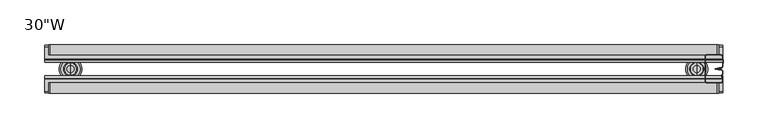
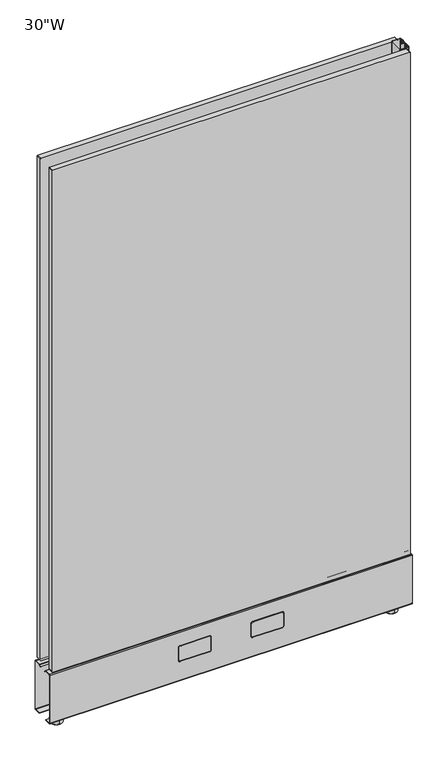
"""IFC4 building model written with IfcOpenShell, lengths in millimetres: furniture geometry."""

from ifc_helpers import new_model, si_unit, point, frame, frame_2d, origin, place, context, project, spatial, polyline, circle_curve, trimmed, segment, composite_curve, outline, extrude, source, transform, mapped, element, save
from ifc_brep_helpers import plane_surface, cylinder_surface, revolved_surface, advanced_brep


def furniture_b77347cf(model_context):
    return source(origin(), model_context, "Body", "SolidModel", [
        extrude(outline(composite_curve([segment(trimmed(circle_curve(frame_2d((133.8403843, 755.9740343)), 1.2634657), [point((132.5769186, 755.9740343))], [point((133.8403843, 757.2375))], False, "CARTESIAN"), True, "CONTINUOUS"), segment(polyline([(133.8403843, 757.2375), (1245.2602242, 757.2375)]), True, "CONTINUOUS"), segment(trimmed(circle_curve(frame_2d((1245.2602242, 755.3941949)), 1.8433051), [point((1245.2602242, 757.2375))], [point((1247.1035294, 755.3941949))], False, "CARTESIAN"), True, "CONTINUOUS"), segment(polyline([(1247.1035294, 755.3941949), (1247.1035294, 6.3370556)]), True, "CONTINUOUS"), segment(trimmed(circle_curve(frame_2d((1245.4908737, 6.3370556)), 1.6126556), [point((1247.1035294, 6.3370556))], [point((1245.4908737, 4.7243999))], False, "CARTESIAN"), True, "CONTINUOUS"), segment(polyline([(1245.4908737, 4.7243999), (134.0795596, 4.7243999)]), True, "CONTINUOUS"), segment(trimmed(circle_curve(frame_2d((134.0795596, 6.227041)), 1.5026411), [point((134.0795596, 4.7243999))], [point((132.5769186, 6.227041))], False, "CARTESIAN"), True, "CONTINUOUS"), segment(polyline([(132.5769186, 6.227041), (132.5769186, 755.9740343)]), True, "CONTINUOUS")], self_intersect=False)), frame((0.0, 44.4550341, 0.0), z_axis=(0.0, 1.0, 0.0), x_axis=(0.0, 0.0, 1.0)), (0.0, 0.0, 1.0), 11.5108241),
        extrude(outline(composite_curve([segment(trimmed(circle_curve(frame_2d((133.8403843, 755.9740343)), 1.2634657), [point((132.5769186, 755.9740343))], [point((133.8403843, 757.2375))], False, "CARTESIAN"), True, "CONTINUOUS"), segment(polyline([(133.8403843, 757.2375), (1245.2602242, 757.2375)]), True, "CONTINUOUS"), segment(trimmed(circle_curve(frame_2d((1245.2602242, 755.3941949)), 1.8433051), [point((1245.2602242, 757.2375))], [point((1247.1035294, 755.3941949))], False, "CARTESIAN"), True, "CONTINUOUS"), segment(polyline([(1247.1035294, 755.3941949), (1247.1035294, 6.3370556)]), True, "CONTINUOUS"), segment(trimmed(circle_curve(frame_2d((1245.4908737, 6.3370556)), 1.6126556), [point((1247.1035294, 6.3370556))], [point((1245.4908737, 4.7243999))], False, "CARTESIAN"), True, "CONTINUOUS"), segment(polyline([(1245.4908737, 4.7243999), (134.0795596, 4.7243999)]), True, "CONTINUOUS"), segment(trimmed(circle_curve(frame_2d((134.0795596, 6.227041)), 1.5026411), [point((134.0795596, 4.7243999))], [point((132.5769186, 6.227041))], False, "CARTESIAN"), True, "CONTINUOUS"), segment(polyline([(132.5769186, 6.227041), (132.5769186, 755.9740343)]), True, "CONTINUOUS")], self_intersect=False)), frame((0.0, 1.3335, 0.0), z_axis=(0.0, 1.0, 0.0), x_axis=(0.0, 0.0, 1.0)), (0.0, 0.0, 1.0), 11.5108241),
        extrude(outline(composite_curve([segment(trimmed(circle_curve(frame_2d((94.8528373, 273.6849782)), 3.175), [point((98.0278373, 273.6849782))], [point((94.8528373, 270.5099782))], False, "CARTESIAN"), True, "CONTINUOUS"), segment(polyline([(94.8528373, 270.5099782), (66.2778343, 270.5099782)]), True, "CONTINUOUS"), segment(trimmed(circle_curve(frame_2d((66.2778343, 273.6849782)), 3.175), [point((66.2778343, 270.5099782))], [point((63.1028343, 273.6849782))], False, "CARTESIAN"), True, "CONTINUOUS"), segment(polyline([(63.1028343, 273.6849782), (63.1028343, 335.9150036)]), True, "CONTINUOUS"), segment(trimmed(circle_curve(frame_2d((66.2778343, 335.9150036)), 3.175), [point((63.1028343, 335.9150036))], [point((66.2778343, 339.0900036))], False, "CARTESIAN"), True, "CONTINUOUS"), segment(polyline([(66.2778343, 339.0900036), (94.8528373, 339.0900036)]), True, "CONTINUOUS"), segment(trimmed(circle_curve(frame_2d((94.8528373, 335.9150036)), 3.175), [point((94.8528373, 339.0900036))], [point((98.0278373, 335.9150036))], False, "CARTESIAN"), True, "CONTINUOUS"), segment(polyline([(98.0278373, 335.9150036), (98.0278373, 273.6849782)]), True, "CONTINUOUS")], self_intersect=False), holes=[composite_curve([segment(trimmed(circle_curve(frame_2d((66.2778343, 335.9150036)), 2.38125), [point((66.2778343, 338.2962536))], [point((63.8965843, 335.9150036))], True, "CARTESIAN"), True, "CONTINUOUS"), segment(polyline([(63.8965843, 335.9150036), (63.8965843, 273.6849782)]), True, "CONTINUOUS"), segment(trimmed(circle_curve(frame_2d((66.2778343, 273.6849782)), 2.38125), [point((63.8965843, 273.6849782))], [point((66.2778343, 271.3037282))], True, "CARTESIAN"), True, "CONTINUOUS"), segment(polyline([(66.2778343, 271.3037282), (94.8528373, 271.3037282)]), True, "CONTINUOUS"), segment(trimmed(circle_curve(frame_2d((94.8528373, 273.6849782)), 2.38125), [point((94.8528373, 271.3037282))], [point((97.2340873, 273.6849782))], True, "CARTESIAN"), True, "CONTINUOUS"), segment(polyline([(97.2340873, 273.6849782), (97.2340873, 335.9150036)]), True, "CONTINUOUS"), segment(trimmed(circle_curve(frame_2d((94.8528373, 335.9150036)), 2.38125), [point((97.2340873, 335.9150036))], [point((94.8528373, 338.2962536))], True, "CARTESIAN"), True, "CONTINUOUS"), segment(polyline([(94.8528373, 338.2962536), (66.2778343, 338.2962536)]), True, "CONTINUOUS")], self_intersect=False)]), frame((0.0, 55.054502, 0.0), z_axis=(0.0, 1.0, 0.0), x_axis=(0.0, 0.0, 1.0)), (0.0, 0.0, 1.0), 0.79375),
        extrude(outline(composite_curve([segment(trimmed(circle_curve(frame_2d((94.8528373, 335.9150036)), 1.984375), [point((94.8528373, 337.8993786))], [point((96.8372123, 335.9150036))], False, "CARTESIAN"), True, "CONTINUOUS"), segment(polyline([(96.8372123, 335.9150036), (96.8372123, 273.6849782)]), True, "CONTINUOUS"), segment(trimmed(circle_curve(frame_2d((94.8528373, 273.6849782)), 1.984375), [point((96.8372123, 273.6849782))], [point((94.8528373, 271.7006032))], False, "CARTESIAN"), True, "CONTINUOUS"), segment(polyline([(94.8528373, 271.7006032), (66.2778343, 271.7006032)]), True, "CONTINUOUS"), segment(trimmed(circle_curve(frame_2d((66.2778343, 273.6849782)), 1.984375), [point((66.2778343, 271.7006032))], [point((64.2934593, 273.6849782))], False, "CARTESIAN"), True, "CONTINUOUS"), segment(polyline([(64.2934593, 273.6849782), (64.2934593, 335.9150036)]), True, "CONTINUOUS"), segment(trimmed(circle_curve(frame_2d((66.2778343, 335.9150036)), 1.984375), [point((64.2934593, 335.9150036))], [point((66.2778343, 337.8993786))], False, "CARTESIAN"), True, "CONTINUOUS"), segment(polyline([(66.2778343, 337.8993786), (94.8528373, 337.8993786)]), True, "CONTINUOUS")], self_intersect=False)), frame((0.0, 55.054502, 0.0), z_axis=(0.0, 1.0, 0.0), x_axis=(0.0, 0.0, 1.0)), (0.0, 0.0, 1.0), 0.79375),
        extrude(outline(composite_curve([segment(trimmed(circle_curve(frame_2d((94.8528373, 426.1103491)), 3.175), [point((98.0278373, 426.1103491))], [point((94.8528373, 422.9353491))], False, "CARTESIAN"), True, "CONTINUOUS"), segment(polyline([(94.8528373, 422.9353491), (66.2778343, 422.9353491)]), True, "CONTINUOUS"), segment(trimmed(circle_curve(frame_2d((66.2778343, 426.1103491)), 3.175), [point((66.2778343, 422.9353491))], [point((63.1028343, 426.1103491))], False, "CARTESIAN"), True, "CONTINUOUS"), segment(polyline([(63.1028343, 426.1103491), (63.1028343, 488.3403745)]), True, "CONTINUOUS"), segment(trimmed(circle_curve(frame_2d((66.2778343, 488.3403745)), 3.175), [point((63.1028343, 488.3403745))], [point((66.2778343, 491.5153745))], False, "CARTESIAN"), True, "CONTINUOUS"), segment(polyline([(66.2778343, 491.5153745), (94.8528373, 491.5153745)]), True, "CONTINUOUS"), segment(trimmed(circle_curve(frame_2d((94.8528373, 488.3403745)), 3.175), [point((94.8528373, 491.5153745))], [point((98.0278373, 488.3403745))], False, "CARTESIAN"), True, "CONTINUOUS"), segment(polyline([(98.0278373, 488.3403745), (98.0278373, 426.1103491)]), True, "CONTINUOUS")], self_intersect=False), holes=[composite_curve([segment(trimmed(circle_curve(frame_2d((66.2778343, 488.3403745)), 2.38125), [point((66.2778343, 490.7216245))], [point((63.8965843, 488.3403745))], True, "CARTESIAN"), True, "CONTINUOUS"), segment(polyline([(63.8965843, 488.3403745), (63.8965843, 426.1103491)]), True, "CONTINUOUS"), segment(trimmed(circle_curve(frame_2d((66.2778343, 426.1103491)), 2.38125), [point((63.8965843, 426.1103491))], [point((66.2778343, 423.7290991))], True, "CARTESIAN"), True, "CONTINUOUS"), segment(polyline([(66.2778343, 423.7290991), (94.8528373, 423.7290991)]), True, "CONTINUOUS"), segment(trimmed(circle_curve(frame_2d((94.8528373, 426.1103491)), 2.38125), [point((94.8528373, 423.7290991))], [point((97.2340873, 426.1103491))], True, "CARTESIAN"), True, "CONTINUOUS"), segment(polyline([(97.2340873, 426.1103491), (97.2340873, 488.3403745)]), True, "CONTINUOUS"), segment(trimmed(circle_curve(frame_2d((94.8528373, 488.3403745)), 2.38125), [point((97.2340873, 488.3403745))], [point((94.8528373, 490.7216245))], True, "CARTESIAN"), True, "CONTINUOUS"), segment(polyline([(94.8528373, 490.7216245), (66.2778343, 490.7216245)]), True, "CONTINUOUS")], self_intersect=False)]), frame((0.0, 55.054502, 0.0), z_axis=(0.0, 1.0, 0.0), x_axis=(0.0, 0.0, 1.0)), (0.0, 0.0, 1.0), 0.79375),
        extrude(outline(composite_curve([segment(trimmed(circle_curve(frame_2d((94.8528373, 488.3403745)), 1.984375), [point((94.8528373, 490.3247495))], [point((96.8372123, 488.3403745))], False, "CARTESIAN"), True, "CONTINUOUS"), segment(polyline([(96.8372123, 488.3403745), (96.8372123, 426.1103491)]), True, "CONTINUOUS"), segment(trimmed(circle_curve(frame_2d((94.8528373, 426.1103491)), 1.984375), [point((96.8372123, 426.1103491))], [point((94.8528373, 424.1259741))], False, "CARTESIAN"), True, "CONTINUOUS"), segment(polyline([(94.8528373, 424.1259741), (66.2778343, 424.1259741)]), True, "CONTINUOUS"), segment(trimmed(circle_curve(frame_2d((66.2778343, 426.1103491)), 1.984375), [point((66.2778343, 424.1259741))], [point((64.2934593, 426.1103491))], False, "CARTESIAN"), True, "CONTINUOUS"), segment(polyline([(64.2934593, 426.1103491), (64.2934593, 488.3403745)]), True, "CONTINUOUS"), segment(trimmed(circle_curve(frame_2d((66.2778343, 488.3403745)), 1.984375), [point((64.2934593, 488.3403745))], [point((66.2778343, 490.3247495))], False, "CARTESIAN"), True, "CONTINUOUS"), segment(polyline([(66.2778343, 490.3247495), (94.8528373, 490.3247495)]), True, "CONTINUOUS")], self_intersect=False)), frame((0.0, 55.054502, 0.0), z_axis=(0.0, 1.0, 0.0), x_axis=(0.0, 0.0, 1.0)), (0.0, 0.0, 1.0), 0.79375),
        extrude(outline(composite_curve([segment(trimmed(circle_curve(frame_2d((94.8528373, 426.1103491)), 3.175), [point((98.0278373, 426.1103491))], [point((94.8528373, 422.9353491))], False, "CARTESIAN"), True, "CONTINUOUS"), segment(polyline([(94.8528373, 422.9353491), (66.2778343, 422.9353491)]), True, "CONTINUOUS"), segment(trimmed(circle_curve(frame_2d((66.2778343, 426.1103491)), 3.175), [point((66.2778343, 422.9353491))], [point((63.1028343, 426.1103491))], False, "CARTESIAN"), True, "CONTINUOUS"), segment(polyline([(63.1028343, 426.1103491), (63.1028343, 488.3403745)]), True, "CONTINUOUS"), segment(trimmed(circle_curve(frame_2d((66.2778343, 488.3403745)), 3.175), [point((63.1028343, 488.3403745))], [point((66.2778343, 491.5153745))], False, "CARTESIAN"), True, "CONTINUOUS"), segment(polyline([(66.2778343, 491.5153745), (94.8528373, 491.5153745)]), True, "CONTINUOUS"), segment(trimmed(circle_curve(frame_2d((94.8528373, 488.3403745)), 3.175), [point((94.8528373, 491.5153745))], [point((98.0278373, 488.3403745))], False, "CARTESIAN"), True, "CONTINUOUS"), segment(polyline([(98.0278373, 488.3403745), (98.0278373, 426.1103491)]), True, "CONTINUOUS")], self_intersect=False), holes=[composite_curve([segment(trimmed(circle_curve(frame_2d((66.2778343, 488.3403745)), 2.38125), [point((66.2778343, 490.7216245))], [point((63.8965843, 488.3403745))], True, "CARTESIAN"), True, "CONTINUOUS"), segment(polyline([(63.8965843, 488.3403745), (63.8965843, 426.1103491)]), True, "CONTINUOUS"), segment(trimmed(circle_curve(frame_2d((66.2778343, 426.1103491)), 2.38125), [point((63.8965843, 426.1103491))], [point((66.2778343, 423.7290991))], True, "CARTESIAN"), True, "CONTINUOUS"), segment(polyline([(66.2778343, 423.7290991), (94.8528373, 423.7290991)]), True, "CONTINUOUS"), segment(trimmed(circle_curve(frame_2d((94.8528373, 426.1103491)), 2.38125), [point((94.8528373, 423.7290991))], [point((97.2340873, 426.1103491))], True, "CARTESIAN"), True, "CONTINUOUS"), segment(polyline([(97.2340873, 426.1103491), (97.2340873, 488.3403745)]), True, "CONTINUOUS"), segment(trimmed(circle_curve(frame_2d((94.8528373, 488.3403745)), 2.38125), [point((97.2340873, 488.3403745))], [point((94.8528373, 490.7216245))], True, "CARTESIAN"), True, "CONTINUOUS"), segment(polyline([(94.8528373, 490.7216245), (66.2778343, 490.7216245)]), True, "CONTINUOUS")], self_intersect=False)]), frame((0.0, 1.2954, 0.0), z_axis=(0.0, 1.0, 0.0), x_axis=(0.0, 0.0, 1.0)), (0.0, 0.0, 1.0), 0.79375),
        extrude(outline(composite_curve([segment(trimmed(circle_curve(frame_2d((94.8528373, 488.3403745)), 1.984375), [point((94.8528373, 490.3247495))], [point((96.8372123, 488.3403745))], False, "CARTESIAN"), True, "CONTINUOUS"), segment(polyline([(96.8372123, 488.3403745), (96.8372123, 426.1103491)]), True, "CONTINUOUS"), segment(trimmed(circle_curve(frame_2d((94.8528373, 426.1103491)), 1.984375), [point((96.8372123, 426.1103491))], [point((94.8528373, 424.1259741))], False, "CARTESIAN"), True, "CONTINUOUS"), segment(polyline([(94.8528373, 424.1259741), (66.2778343, 424.1259741)]), True, "CONTINUOUS"), segment(trimmed(circle_curve(frame_2d((66.2778343, 426.1103491)), 1.984375), [point((66.2778343, 424.1259741))], [point((64.2934593, 426.1103491))], False, "CARTESIAN"), True, "CONTINUOUS"), segment(polyline([(64.2934593, 426.1103491), (64.2934593, 488.3403745)]), True, "CONTINUOUS"), segment(trimmed(circle_curve(frame_2d((66.2778343, 488.3403745)), 1.984375), [point((64.2934593, 488.3403745))], [point((66.2778343, 490.3247495))], False, "CARTESIAN"), True, "CONTINUOUS"), segment(polyline([(66.2778343, 490.3247495), (94.8528373, 490.3247495)]), True, "CONTINUOUS")], self_intersect=False)), frame((0.0, 1.2954, 0.0), z_axis=(0.0, 1.0, 0.0), x_axis=(0.0, 0.0, 1.0)), (0.0, 0.0, 1.0), 0.79375),
        extrude(outline(composite_curve([segment(trimmed(circle_curve(frame_2d((94.8528373, 273.6849782)), 3.175), [point((98.0278373, 273.6849782))], [point((94.8528373, 270.5099782))], False, "CARTESIAN"), True, "CONTINUOUS"), segment(polyline([(94.8528373, 270.5099782), (66.2778343, 270.5099782)]), True, "CONTINUOUS"), segment(trimmed(circle_curve(frame_2d((66.2778343, 273.6849782)), 3.175), [point((66.2778343, 270.5099782))], [point((63.1028343, 273.6849782))], False, "CARTESIAN"), True, "CONTINUOUS"), segment(polyline([(63.1028343, 273.6849782), (63.1028343, 335.9150036)]), True, "CONTINUOUS"), segment(trimmed(circle_curve(frame_2d((66.2778343, 335.9150036)), 3.175), [point((63.1028343, 335.9150036))], [point((66.2778343, 339.0900036))], False, "CARTESIAN"), True, "CONTINUOUS"), segment(polyline([(66.2778343, 339.0900036), (94.8528373, 339.0900036)]), True, "CONTINUOUS"), segment(trimmed(circle_curve(frame_2d((94.8528373, 335.9150036)), 3.175), [point((94.8528373, 339.0900036))], [point((98.0278373, 335.9150036))], False, "CARTESIAN"), True, "CONTINUOUS"), segment(polyline([(98.0278373, 335.9150036), (98.0278373, 273.6849782)]), True, "CONTINUOUS")], self_intersect=False), holes=[composite_curve([segment(trimmed(circle_curve(frame_2d((66.2778343, 335.9150036)), 2.38125), [point((66.2778343, 338.2962536))], [point((63.8965843, 335.9150036))], True, "CARTESIAN"), True, "CONTINUOUS"), segment(polyline([(63.8965843, 335.9150036), (63.8965843, 273.6849782)]), True, "CONTINUOUS"), segment(trimmed(circle_curve(frame_2d((66.2778343, 273.6849782)), 2.38125), [point((63.8965843, 273.6849782))], [point((66.2778343, 271.3037282))], True, "CARTESIAN"), True, "CONTINUOUS"), segment(polyline([(66.2778343, 271.3037282), (94.8528373, 271.3037282)]), True, "CONTINUOUS"), segment(trimmed(circle_curve(frame_2d((94.8528373, 273.6849782)), 2.38125), [point((94.8528373, 271.3037282))], [point((97.2340873, 273.6849782))], True, "CARTESIAN"), True, "CONTINUOUS"), segment(polyline([(97.2340873, 273.6849782), (97.2340873, 335.9150036)]), True, "CONTINUOUS"), segment(trimmed(circle_curve(frame_2d((94.8528373, 335.9150036)), 2.38125), [point((97.2340873, 335.9150036))], [point((94.8528373, 338.2962536))], True, "CARTESIAN"), True, "CONTINUOUS"), segment(polyline([(94.8528373, 338.2962536), (66.2778343, 338.2962536)]), True, "CONTINUOUS")], self_intersect=False)]), frame((0.0, 1.2954, 0.0), z_axis=(0.0, 1.0, 0.0), x_axis=(0.0, 0.0, 1.0)), (0.0, 0.0, 1.0), 0.79375),
        extrude(outline(composite_curve([segment(trimmed(circle_curve(frame_2d((94.8528373, 335.9150036)), 1.984375), [point((94.8528373, 337.8993786))], [point((96.8372123, 335.9150036))], False, "CARTESIAN"), True, "CONTINUOUS"), segment(polyline([(96.8372123, 335.9150036), (96.8372123, 273.6849782)]), True, "CONTINUOUS"), segment(trimmed(circle_curve(frame_2d((94.8528373, 273.6849782)), 1.984375), [point((96.8372123, 273.6849782))], [point((94.8528373, 271.7006032))], False, "CARTESIAN"), True, "CONTINUOUS"), segment(polyline([(94.8528373, 271.7006032), (66.2778343, 271.7006032)]), True, "CONTINUOUS"), segment(trimmed(circle_curve(frame_2d((66.2778343, 273.6849782)), 1.984375), [point((66.2778343, 271.7006032))], [point((64.2934593, 273.6849782))], False, "CARTESIAN"), True, "CONTINUOUS"), segment(polyline([(64.2934593, 273.6849782), (64.2934593, 335.9150036)]), True, "CONTINUOUS"), segment(trimmed(circle_curve(frame_2d((66.2778343, 335.9150036)), 1.984375), [point((64.2934593, 335.9150036))], [point((66.2778343, 337.8993786))], False, "CARTESIAN"), True, "CONTINUOUS"), segment(polyline([(66.2778343, 337.8993786), (94.8528373, 337.8993786)]), True, "CONTINUOUS")], self_intersect=False)), frame((0.0, 1.2954, 0.0), z_axis=(0.0, 1.0, 0.0), x_axis=(0.0, 0.0, 1.0)), (0.0, 0.0, 1.0), 0.79375),
        advanced_brep(
        [(732.7900097, 41.1455956, 7.9264178), (732.7900097, 16.0044044, 7.9264178), (732.7900097, 17.5919044, 9.5139178), (732.7900097, 39.5580956, 9.5139178), (732.7900097, 41.1455956, 0.79375), (732.7900097, 16.0044044, 0.79375), (732.7900097, 40.3518456, 0.0), (732.7900097, 16.7981544, 0.0), (732.7900097, 28.575, 0.0), (732.7900097, 35.6235001, 11.2919173), (732.7900097, 21.5264999, 11.2919173), (732.7900097, 24.6038476, 11.2919173), (732.7900097, 32.5461524, 11.2919173), (732.7900097, 36.2584995, 10.6569179), (732.7900097, 20.8915005, 10.6569179), (732.7900097, 36.2584995, 9.5139178), (732.7900097, 20.8915005, 9.5139178), (732.7900097, 32.5461524, 27.1248686), (732.7900097, 24.6038476, 27.1248686), (732.7900097, 28.575, 27.1248686)],
        [
            (0, 1, circle_curve(frame((732.7900097, 28.575, 7.9264178), z_axis=(0.0, 0.0, 1.0), x_axis=(0.0, -1.0, 0.0)), 12.5705956)),
            (1, 2),
            (2, 3, circle_curve(frame((732.7900097, 28.575, 9.5139178), z_axis=(0.0, 0.0, -1.0), x_axis=(0.0, -1.0, 0.0)), 10.9830956)),
            (3, 0),
            (1, 0, circle_curve(frame((732.7900097, 28.575, 7.9264178), z_axis=(0.0, 0.0, 1.0), x_axis=(0.0, -1.0, 0.0)), 12.5705956)),
            (3, 2, circle_curve(frame((732.7900097, 28.575, 9.5139178), z_axis=(0.0, 0.0, -1.0), x_axis=(0.0, -1.0, 0.0)), 10.9830956)),
            (4, 5, circle_curve(frame((732.7900097, 28.575, 0.79375), z_axis=(0.0, 0.0, 1.0), x_axis=(0.0, -1.0, 0.0)), 12.5705956)),
            (5, 1),
            (0, 4),
            (5, 4, circle_curve(frame((732.7900097, 28.575, 0.79375), z_axis=(0.0, 0.0, 1.0), x_axis=(0.0, -1.0, 0.0)), 12.5705956)),
            (6, 7, circle_curve(frame((732.7900097, 28.575, 0.0), z_axis=(0.0, 0.0, 1.0), x_axis=(0.0, -1.0, 0.0)), 11.7768456)),
            (7, 5),
            (4, 6),
            (7, 6, circle_curve(frame((732.7900097, 28.575, 0.0), z_axis=(0.0, 0.0, 1.0), x_axis=(0.0, -1.0, 0.0)), 11.7768456)),
            (8, 7),
            (6, 8),
            (9, 10, circle_curve(frame((732.7900097, 28.575, 11.2919173), z_axis=(0.0, 0.0, 1.0), x_axis=(0.0, -1.0, 0.0)), 7.0485001)),
            (10, 11),
            (11, 12, circle_curve(frame((732.7900097, 28.575, 11.2919173), z_axis=(0.0, 0.0, -1.0), x_axis=(0.0, -1.0, 0.0)), 3.9711524)),
            (12, 9),
            (10, 9, circle_curve(frame((732.7900097, 28.575, 11.2919173), z_axis=(0.0, 0.0, 1.0), x_axis=(0.0, -1.0, 0.0)), 7.0485001)),
            (12, 11, circle_curve(frame((732.7900097, 28.575, 11.2919173), z_axis=(0.0, 0.0, -1.0), x_axis=(0.0, -1.0, 0.0)), 3.9711524)),
            (13, 14, circle_curve(frame((732.7900097, 28.575, 10.6569179), z_axis=(0.0, 0.0, 1.0), x_axis=(0.0, -1.0, 0.0)), 7.6834995)),
            (14, 10),
            (9, 13),
            (14, 13, circle_curve(frame((732.7900097, 28.575, 10.6569179), z_axis=(0.0, 0.0, 1.0), x_axis=(0.0, -1.0, 0.0)), 7.6834995)),
            (15, 16, circle_curve(frame((732.7900097, 28.575, 9.5139178), z_axis=(0.0, 0.0, 1.0), x_axis=(0.0, -1.0, 0.0)), 7.6834995)),
            (16, 14),
            (13, 15),
            (16, 15, circle_curve(frame((732.7900097, 28.575, 9.5139178), z_axis=(0.0, 0.0, 1.0), x_axis=(0.0, -1.0, 0.0)), 7.6834995)),
            (2, 16),
            (15, 3),
            (17, 18, circle_curve(frame((732.7900097, 28.575, 27.1248686), z_axis=(0.0, 0.0, 1.0), x_axis=(0.0, -1.0, 0.0)), 3.9711524)),
            (18, 19),
            (19, 17),
            (18, 17, circle_curve(frame((732.7900097, 28.575, 27.1248686), z_axis=(0.0, 0.0, 1.0), x_axis=(0.0, -1.0, 0.0)), 3.9711524)),
            (11, 18),
            (17, 12),
        ],
        [
            revolved_surface(polyline([(732.7900097, 17.5919044, 9.5139178), (732.7900097, 16.0044044, 7.9264178)]), (732.7900097, 28.575, 0.0), (0.0, 0.0, -1.0)),
            cylinder_surface(frame((732.7900097, 28.575, 0.0), z_axis=(0.0, 0.0, -1.0), x_axis=(0.0, -1.0, 0.0)), 12.5705956),
            revolved_surface(polyline([(732.7900097, 16.0044044, 0.79375), (732.7900097, 16.7981544, 0.0)]), (732.7900097, 28.575, 0.0), (0.0, 0.0, -1.0)),
            plane_surface(frame((732.7900097, 28.575, 0.0), z_axis=(0.0, 0.0, -1.0), x_axis=(0.0, -1.0, 0.0))),
            plane_surface(frame((732.7900097, 28.575, 11.2919173), z_axis=(0.0, 0.0, 1.0), x_axis=(0.0, -1.0, 0.0))),
            revolved_surface(polyline([(732.7900097, 21.5264999, 11.2919173), (732.7900097, 20.8915005, 10.6569179)]), (732.7900097, 28.575, 0.0), (0.0, 0.0, -1.0)),
            cylinder_surface(frame((732.7900097, 28.575, 0.0), z_axis=(0.0, 0.0, -1.0), x_axis=(0.0, -1.0, 0.0)), 7.6834995),
            plane_surface(frame((732.7900097, 28.575, 9.5139178), z_axis=(0.0, 0.0, 1.0), x_axis=(0.0, -1.0, 0.0))),
            plane_surface(frame((732.7900097, 28.575, 27.1248686), z_axis=(0.0, 0.0, 1.0), x_axis=(0.0, -1.0, 0.0))),
            cylinder_surface(frame((732.7900097, 28.575, 0.0), z_axis=(0.0, 0.0, -1.0), x_axis=(0.0, -1.0, 0.0)), 3.9711524),
        ],
        [
            (0, [[1, 2, 3, 4]]),
            (0, [[5, -4, 6, -2]]),
            (1, [[7, 8, -1, 9]]),
            (1, [[10, -9, -5, -8]]),
            (2, [[11, 12, -7, 13]]),
            (2, [[14, -13, -10, -12]]),
            (3, [[15, -11, 16]]),
            (3, [[-16, -14, -15]]),
            (4, [[17, 18, 19, 20]]),
            (4, [[21, -20, 22, -18]]),
            (5, [[23, 24, -17, 25]]),
            (5, [[26, -25, -21, -24]]),
            (6, [[27, 28, -23, 29]]),
            (6, [[30, -29, -26, -28]]),
            (7, [[-3, 31, -27, 32]]),
            (7, [[-6, -32, -30, -31]]),
            (8, [[33, 34, 35]]),
            (8, [[36, -35, -34]]),
            (9, [[-19, 37, -33, 38]]),
            (9, [[-22, -38, -36, -37]]),
        ],
    ),
        advanced_brep(
        [(29.2099994, 36.2584995, 9.5139178), (29.2099994, 20.8915005, 9.5139178), (29.2099994, 17.5919044, 9.5139178), (29.2099994, 39.5580956, 9.5139178), (29.2099994, 36.2584995, 10.6569179), (29.2099994, 20.8915005, 10.6569179), (29.2099994, 35.6235001, 11.2919173), (29.2099994, 21.5264999, 11.2919173), (29.2099994, 32.5461524, 11.2919173), (29.2099994, 24.6038476, 11.2919173), (29.2099994, 40.3518456, 0.0), (29.2099994, 16.7981544, 0.0), (29.2099994, 28.575, 0.0), (29.2099994, 41.1455956, 0.79375), (29.2099994, 16.0044044, 0.79375), (29.2099994, 41.1455956, 7.9264178), (29.2099994, 16.0044044, 7.9264178), (29.2099994, 32.5461524, 27.1248686), (29.2099994, 24.6038476, 27.1248686), (29.2099994, 28.575, 27.1248686)],
        [
            (0, 1, circle_curve(frame((29.2099994, 28.575, 9.5139178), z_axis=(0.0, 0.0, -1.0), x_axis=(0.0, -1.0, 0.0)), 7.6834995)),
            (1, 2),
            (2, 3, circle_curve(frame((29.2099994, 28.575, 9.5139178), z_axis=(0.0, 0.0, 1.0), x_axis=(0.0, -1.0, 0.0)), 10.9830956)),
            (3, 0),
            (1, 0, circle_curve(frame((29.2099994, 28.575, 9.5139178), z_axis=(0.0, 0.0, -1.0), x_axis=(0.0, -1.0, 0.0)), 7.6834995)),
            (3, 2, circle_curve(frame((29.2099994, 28.575, 9.5139178), z_axis=(0.0, 0.0, 1.0), x_axis=(0.0, -1.0, 0.0)), 10.9830956)),
            (4, 5, circle_curve(frame((29.2099994, 28.575, 10.6569179), z_axis=(0.0, 0.0, -1.0), x_axis=(0.0, -1.0, 0.0)), 7.6834995)),
            (5, 1),
            (0, 4),
            (5, 4, circle_curve(frame((29.2099994, 28.575, 10.6569179), z_axis=(0.0, 0.0, -1.0), x_axis=(0.0, -1.0, 0.0)), 7.6834995)),
            (6, 7, circle_curve(frame((29.2099994, 28.575, 11.2919173), z_axis=(0.0, 0.0, -1.0), x_axis=(0.0, -1.0, 0.0)), 7.0485001)),
            (7, 5),
            (4, 6),
            (7, 6, circle_curve(frame((29.2099994, 28.575, 11.2919173), z_axis=(0.0, 0.0, -1.0), x_axis=(0.0, -1.0, 0.0)), 7.0485001)),
            (8, 9, circle_curve(frame((29.2099994, 28.575, 11.2919173), z_axis=(0.0, 0.0, -1.0), x_axis=(0.0, -1.0, 0.0)), 3.9711524)),
            (9, 7),
            (6, 8),
            (9, 8, circle_curve(frame((29.2099994, 28.575, 11.2919173), z_axis=(0.0, 0.0, -1.0), x_axis=(0.0, -1.0, 0.0)), 3.9711524)),
            (10, 11, circle_curve(frame((29.2099994, 28.575, 0.0), z_axis=(0.0, 0.0, -1.0), x_axis=(0.0, -1.0, 0.0)), 11.7768456)),
            (11, 12),
            (12, 10),
            (11, 10, circle_curve(frame((29.2099994, 28.575, 0.0), z_axis=(0.0, 0.0, -1.0), x_axis=(0.0, -1.0, 0.0)), 11.7768456)),
            (13, 14, circle_curve(frame((29.2099994, 28.575, 0.79375), z_axis=(0.0, 0.0, -1.0), x_axis=(0.0, -1.0, 0.0)), 12.5705956)),
            (14, 11),
            (10, 13),
            (14, 13, circle_curve(frame((29.2099994, 28.575, 0.79375), z_axis=(0.0, 0.0, -1.0), x_axis=(0.0, -1.0, 0.0)), 12.5705956)),
            (15, 16, circle_curve(frame((29.2099994, 28.575, 7.9264178), z_axis=(0.0, 0.0, -1.0), x_axis=(0.0, -1.0, 0.0)), 12.5705956)),
            (16, 14),
            (13, 15),
            (16, 15, circle_curve(frame((29.2099994, 28.575, 7.9264178), z_axis=(0.0, 0.0, -1.0), x_axis=(0.0, -1.0, 0.0)), 12.5705956)),
            (2, 16),
            (15, 3),
            (17, 18, circle_curve(frame((29.2099994, 28.575, 27.1248686), z_axis=(0.0, 0.0, -1.0), x_axis=(0.0, -1.0, 0.0)), 3.9711524)),
            (18, 9),
            (8, 17),
            (18, 17, circle_curve(frame((29.2099994, 28.575, 27.1248686), z_axis=(0.0, 0.0, -1.0), x_axis=(0.0, -1.0, 0.0)), 3.9711524)),
            (19, 18),
            (17, 19),
        ],
        [
            plane_surface(frame((29.2099994, 28.575, 9.5139178), z_axis=(0.0, 0.0, 1.0), x_axis=(0.0, -1.0, 0.0))),
            cylinder_surface(frame((29.2099994, 28.575, 44.45), z_axis=(0.0, 0.0, 1.0), x_axis=(0.0, -1.0, 0.0)), 7.6834995),
            revolved_surface(polyline([(29.2099994, 20.8915005, 10.6569179), (29.2099994, 21.5264999, 11.2919173)]), (29.2099994, 28.575, 44.45), (0.0, 0.0, 1.0)),
            plane_surface(frame((29.2099994, 28.575, 11.2919173), z_axis=(0.0, 0.0, 1.0), x_axis=(0.0, -1.0, 0.0))),
            plane_surface(frame((29.2099994, 28.575, 0.0), z_axis=(0.0, 0.0, -1.0), x_axis=(0.0, -1.0, 0.0))),
            revolved_surface(polyline([(29.2099994, 16.7981544, 0.0), (29.2099994, 16.0044044, 0.79375)]), (29.2099994, 28.575, 44.45), (0.0, 0.0, 1.0)),
            cylinder_surface(frame((29.2099994, 28.575, 44.45), z_axis=(0.0, 0.0, 1.0), x_axis=(0.0, -1.0, 0.0)), 12.5705956),
            revolved_surface(polyline([(29.2099994, 16.0044044, 7.9264178), (29.2099994, 17.5919044, 9.5139178)]), (29.2099994, 28.575, 44.45), (0.0, 0.0, 1.0)),
            cylinder_surface(frame((29.2099994, 28.575, 44.45), z_axis=(0.0, 0.0, 1.0), x_axis=(0.0, -1.0, 0.0)), 3.9711524),
            plane_surface(frame((29.2099994, 28.575, 27.1248686), z_axis=(0.0, 0.0, 1.0), x_axis=(0.0, -1.0, 0.0))),
        ],
        [
            (0, [[1, 2, 3, 4]]),
            (0, [[5, -4, 6, -2]]),
            (1, [[7, 8, -1, 9]]),
            (1, [[10, -9, -5, -8]]),
            (2, [[11, 12, -7, 13]]),
            (2, [[14, -13, -10, -12]]),
            (3, [[15, 16, -11, 17]]),
            (3, [[18, -17, -14, -16]]),
            (4, [[19, 20, 21]]),
            (4, [[22, -21, -20]]),
            (5, [[23, 24, -19, 25]]),
            (5, [[26, -25, -22, -24]]),
            (6, [[27, 28, -23, 29]]),
            (6, [[30, -29, -26, -28]]),
            (7, [[-3, 31, -27, 32]]),
            (7, [[-6, -32, -30, -31]]),
            (8, [[33, 34, -15, 35]]),
            (8, [[36, -35, -18, -34]]),
            (9, [[37, -33, 38]]),
            (9, [[-38, -36, -37]]),
        ],
    ),
        extrude(outline(composite_curve([segment(trimmed(circle_curve(frame_2d((3.67665, 127.0651214)), 1.5875), [point((2.08915, 127.0651214))], [point((3.67665, 128.6526214))], False, "CARTESIAN"), True, "CONTINUOUS"), segment(polyline([(3.67665, 128.6526214), (16.9557654, 128.6526214)]), True, "CONTINUOUS"), segment(trimmed(circle_curve(frame_2d((16.9557654, 127.0537817)), 1.5988397), [point((16.9557654, 128.6526214))], [point((18.1058757, 128.1644277))], False, "CARTESIAN"), True, "CONTINUOUS"), segment(polyline([(18.1058757, 128.1644277), (20.8470642, 125.3258372), (20.2857127, 124.7644857), (17.7656046, 127.3741402)]), True, "CONTINUOUS"), segment(trimmed(circle_curve(frame_2d((16.6236514, 126.2713714)), 1.5875), [point((17.7656046, 127.3741402))], [point((16.6236514, 127.8588714))], True, "CARTESIAN"), True, "CONTINUOUS"), segment(polyline([(16.6236514, 127.8588714), (3.67665, 127.8588714)]), True, "CONTINUOUS"), segment(trimmed(circle_curve(frame_2d((3.67665, 127.0651214)), 0.79375), [point((3.67665, 127.8588714))], [point((2.8829, 127.0651214))], True, "CARTESIAN"), True, "CONTINUOUS"), segment(polyline([(2.8829, 127.0651214), (2.8829, 21.128067)]), True, "CONTINUOUS"), segment(trimmed(circle_curve(frame_2d((3.67665, 21.128067)), 0.79375), [point((2.8829, 21.128067))], [point((3.67665, 20.334317))], True, "CARTESIAN"), True, "CONTINUOUS"), segment(polyline([(3.67665, 20.334317), (16.0826734, 20.334317), (16.0826734, 19.540567), (3.67665, 19.540567)]), True, "CONTINUOUS"), segment(trimmed(circle_curve(frame_2d((3.67665, 21.128067)), 1.5875), [point((3.67665, 19.540567))], [point((2.08915, 21.128067))], False, "CARTESIAN"), True, "CONTINUOUS"), segment(polyline([(2.08915, 21.128067), (2.08915, 127.0651214)]), True, "CONTINUOUS")], self_intersect=False)), frame((0.0, 0.0, 0.0), z_axis=(1.0, 0.0, 0.0), x_axis=(0.0, 1.0, 0.0)), (0.0, 0.0, 1.0), 762.0),
        extrude(outline(composite_curve([segment(polyline([(55.054502, 127.8488945), (55.054502, 21.9118401)]), True, "CONTINUOUS"), segment(trimmed(circle_curve(frame_2d((53.467002, 21.9118401)), 1.5875), [point((55.054502, 21.9118401))], [point((53.467002, 20.3243401))], False, "CARTESIAN"), True, "CONTINUOUS"), segment(polyline([(53.467002, 20.3243401), (41.0609786, 20.3243401), (41.0609786, 21.1180901), (53.467002, 21.1180901)]), True, "CONTINUOUS"), segment(trimmed(circle_curve(frame_2d((53.467002, 21.9118401)), 0.79375), [point((53.467002, 21.1180901))], [point((54.260752, 21.9118401))], True, "CARTESIAN"), True, "CONTINUOUS"), segment(polyline([(54.260752, 21.9118401), (54.260752, 127.8488945)]), True, "CONTINUOUS"), segment(trimmed(circle_curve(frame_2d((53.467002, 127.8488945)), 0.79375), [point((54.260752, 127.8488945))], [point((53.467002, 128.6426445))], True, "CARTESIAN"), True, "CONTINUOUS"), segment(polyline([(53.467002, 128.6426445), (40.5200006, 128.6426445)]), True, "CONTINUOUS"), segment(trimmed(circle_curve(frame_2d((40.5200006, 127.0551445)), 1.5875), [point((40.5200006, 128.6426445))], [point((39.3780474, 128.1579133))], True, "CARTESIAN"), True, "CONTINUOUS"), segment(polyline([(39.3780474, 128.1579133), (36.8579393, 125.5482588), (36.2965878, 126.1096103), (39.0377763, 128.9482008)]), True, "CONTINUOUS"), segment(trimmed(circle_curve(frame_2d((40.1878866, 127.8375548)), 1.5988397), [point((39.0377763, 128.9482008))], [point((40.1878866, 129.4363945))], False, "CARTESIAN"), True, "CONTINUOUS"), segment(polyline([(40.1878866, 129.4363945), (53.467002, 129.4363945)]), True, "CONTINUOUS"), segment(trimmed(circle_curve(frame_2d((53.467002, 127.8488945)), 1.5875), [point((53.467002, 129.4363945))], [point((55.054502, 127.8488945))], False, "CARTESIAN"), True, "CONTINUOUS")], self_intersect=False)), frame((0.0, 0.0, 0.0), z_axis=(1.0, 0.0, 0.0), x_axis=(0.0, 1.0, 0.0)), (0.0, 0.0, 1.0), 762.0),
        advanced_brep(
        [(744.5446565, 44.4550341, 1249.3625), (742.1634065, 42.0737841, 1249.3625), (742.1634065, 15.1039609, 1249.3625), (744.5623315, 12.705036, 1249.3625), (759.5370057, 12.705036, 1249.3625), (761.9754058, 15.1039609, 1249.3625), (761.9754058, 17.9274722, 1249.3625), (762.0, 22.7944174, 1249.3625), (762.0, 25.4623045, 1249.3625), (760.0169242, 27.8193313, 1249.3625), (755.5844003, 28.5888726, 1249.3625), (760.0169242, 29.3584138, 1249.3625), (762.0, 31.7154406, 1249.3625), (762.0, 34.441489, 1249.3625), (761.9754058, 39.2502728, 1249.3625), (761.9754058, 42.0737841, 1249.3625), (759.5941558, 44.4550341, 1249.3625), (761.1816558, 17.6524355, 1249.3625), (761.1816558, 15.1039609, 1249.3625), (759.5941558, 13.5164609, 1249.3625), (744.5623315, 13.498786, 1249.3625), (742.9571565, 15.1039609, 1249.3625), (742.9571565, 42.0737841, 1249.3625), (744.5446565, 43.6612841, 1249.3625), (759.5941558, 43.6612841, 1249.3625), (761.1816558, 42.0737841, 1249.3625), (761.1816558, 38.9396595, 1249.3625), (761.20625, 34.7471082, 1249.3625), (761.20625, 31.7154406, 1249.3625), (759.8811503, 30.1404653, 1249.3625), (753.2642223, 28.9916843, 1249.3625), (753.2642223, 28.1860608, 1249.3625), (759.8811503, 27.0372798, 1249.3625), (761.20625, 25.4623045, 1249.3625), (761.20625, 23.0737131, 1249.3625), (744.5446565, 44.4550341, 130.175), (759.5941558, 44.4550341, 130.175), (761.9754058, 42.0737841, 130.175), (761.9754058, 39.2502728, 130.175), (762.0, 34.441489, 130.175), (762.0, 31.7154406, 130.175), (760.0169242, 29.3584138, 130.175), (755.5844003, 28.5888726, 130.175), (760.0169242, 27.8193313, 130.175), (762.0, 25.4623045, 130.175), (762.0, 22.7944174, 130.175), (761.9754058, 17.9274722, 130.175), (761.9754058, 15.1039609, 130.175), (759.5941558, 12.7227109, 130.175), (744.5623315, 12.705036, 130.175), (742.1634065, 15.1039609, 130.175), (742.1634065, 42.0737841, 130.175), (761.1816558, 17.6524355, 130.175), (761.20625, 23.0737131, 130.175), (761.20625, 25.4623045, 130.175), (759.8811503, 27.0372798, 130.175), (753.2642223, 28.1860608, 130.175), (753.2642223, 28.9916843, 130.175), (759.8811503, 30.1404653, 130.175), (761.20625, 31.7154406, 130.175), (761.20625, 34.7471082, 130.175), (761.1816558, 38.9396595, 130.175), (761.1816558, 42.0737841, 130.175), (759.5941558, 43.6612841, 130.175), (744.5446565, 43.6612841, 130.175), (742.9571565, 42.0737841, 130.175), (742.9571565, 15.1039609, 130.175), (744.5623315, 13.498786, 130.175), (759.5370057, 13.498786, 130.175), (761.1816558, 15.1039609, 130.175)],
        [
            (0, 1, circle_curve(frame((744.5446565, 42.0737841, 1249.3625), z_axis=(0.0, 0.0, 1.0), x_axis=(-1.0, 0.0, 0.0)), 2.38125)),
            (1, 2),
            (2, 3, circle_curve(frame((744.5623315, 15.1039609, 1249.3625), z_axis=(0.0, 0.0, 1.0), x_axis=(-1.0, 0.0, 0.0)), 2.398925)),
            (3, 4),
            (4, 5, circle_curve(frame((759.5941558, 15.1039609, 1249.3625), z_axis=(0.0, 0.0, 1.0), x_axis=(-1.0, 0.0, 0.0)), 2.38125)),
            (5, 6),
            (6, 7, circle_curve(frame((764.8354169, 20.3465544, 1249.3625), z_axis=(0.0, 0.0, -1.0), x_axis=(-1.0, 0.0, 0.0)), 3.7458807)),
            (7, 8),
            (8, 9, circle_curve(frame((759.607715, 25.4623045, 1249.3625), z_axis=(0.0, 0.0, 1.0), x_axis=(-1.0, 0.0, 0.0)), 2.392285)),
            (9, 10),
            (10, 11),
            (11, 12, circle_curve(frame((759.607715, 31.7154406, 1249.3625), z_axis=(0.0, 0.0, 1.0), x_axis=(-1.0, 0.0, 0.0)), 2.392285)),
            (12, 13),
            (13, 14, circle_curve(frame((759.1153946, 36.8311907, 1249.3625), z_axis=(0.0, 0.0, 1.0), x_axis=(-1.0, 0.0, 0.0)), 3.7458807)),
            (14, 15),
            (15, 16, circle_curve(frame((759.5941558, 42.0737841, 1249.3625), z_axis=(0.0, 0.0, 1.0), x_axis=(-1.0, 0.0, 0.0)), 2.38125)),
            (16, 0),
            (17, 18),
            (18, 19, circle_curve(frame((759.5941558, 15.1039609, 1249.3625), z_axis=(0.0, 0.0, -1.0), x_axis=(-1.0, 0.0, 0.0)), 1.5875)),
            (19, 20),
            (20, 21, circle_curve(frame((744.5623315, 15.1039609, 1249.3625), z_axis=(0.0, 0.0, -1.0), x_axis=(-1.0, 0.0, 0.0)), 1.605175)),
            (21, 22),
            (22, 23, circle_curve(frame((744.5446565, 42.0737841, 1249.3625), z_axis=(0.0, 0.0, -1.0), x_axis=(-1.0, 0.0, 0.0)), 1.5875)),
            (23, 24),
            (24, 25, circle_curve(frame((759.5941558, 42.0737841, 1249.3625), z_axis=(0.0, 0.0, -1.0), x_axis=(-1.0, 0.0, 0.0)), 1.5875)),
            (25, 26),
            (26, 27, circle_curve(frame((759.1153946, 36.8311907, 1249.3625), z_axis=(0.0, 0.0, -1.0), x_axis=(-1.0, 0.0, 0.0)), 2.9521307)),
            (27, 28),
            (28, 29, circle_curve(frame((759.607715, 31.7154406, 1249.3625), z_axis=(0.0, 0.0, -1.0), x_axis=(-1.0, 0.0, 0.0)), 1.598535)),
            (29, 30),
            (30, 31),
            (31, 32),
            (32, 33, circle_curve(frame((759.607715, 25.4623045, 1249.3625), z_axis=(0.0, 0.0, -1.0), x_axis=(-1.0, 0.0, 0.0)), 1.598535)),
            (33, 34),
            (34, 17, circle_curve(frame((764.8354169, 20.3465544, 1249.3625), z_axis=(0.0, 0.0, 1.0), x_axis=(-1.0, 0.0, 0.0)), 4.5396307)),
            (35, 36),
            (36, 37, circle_curve(frame((759.5941558, 42.0737841, 130.175), z_axis=(0.0, 0.0, -1.0), x_axis=(-1.0, 0.0, 0.0)), 2.38125)),
            (37, 38),
            (38, 39, circle_curve(frame((759.1153946, 36.8311907, 130.175), z_axis=(0.0, 0.0, -1.0), x_axis=(-1.0, 0.0, 0.0)), 3.7458807)),
            (39, 40),
            (40, 41, circle_curve(frame((759.607715, 31.7154406, 130.175), z_axis=(0.0, 0.0, -1.0), x_axis=(-1.0, 0.0, 0.0)), 2.392285)),
            (41, 42),
            (42, 43),
            (43, 44, circle_curve(frame((759.607715, 25.4623045, 130.175), z_axis=(0.0, 0.0, -1.0), x_axis=(-1.0, 0.0, 0.0)), 2.392285)),
            (44, 45),
            (45, 46, circle_curve(frame((764.8354169, 20.3465544, 130.175), z_axis=(0.0, 0.0, 1.0), x_axis=(-1.0, 0.0, 0.0)), 3.7458807)),
            (46, 47),
            (47, 48, circle_curve(frame((759.5941558, 15.1039609, 130.175), z_axis=(0.0, 0.0, -1.0), x_axis=(-1.0, 0.0, 0.0)), 2.38125)),
            (48, 49),
            (49, 50, circle_curve(frame((744.5623315, 15.1039609, 130.175), z_axis=(0.0, 0.0, -1.0), x_axis=(-1.0, 0.0, 0.0)), 2.398925)),
            (50, 51),
            (51, 35, circle_curve(frame((744.5446565, 42.0737841, 130.175), z_axis=(0.0, 0.0, -1.0), x_axis=(-1.0, 0.0, 0.0)), 2.38125)),
            (52, 53, circle_curve(frame((764.8354169, 20.3465544, 130.175), z_axis=(0.0, 0.0, -1.0), x_axis=(-1.0, 0.0, 0.0)), 4.5396307)),
            (53, 54),
            (54, 55, circle_curve(frame((759.607715, 25.4623045, 130.175), z_axis=(0.0, 0.0, 1.0), x_axis=(-1.0, 0.0, 0.0)), 1.598535)),
            (55, 56),
            (56, 57),
            (57, 58),
            (58, 59, circle_curve(frame((759.607715, 31.7154406, 130.175), z_axis=(0.0, 0.0, 1.0), x_axis=(-1.0, 0.0, 0.0)), 1.598535)),
            (59, 60),
            (60, 61, circle_curve(frame((759.1153946, 36.8311907, 130.175), z_axis=(0.0, 0.0, 1.0), x_axis=(-1.0, 0.0, 0.0)), 2.9521307)),
            (61, 62),
            (62, 63, circle_curve(frame((759.5941558, 42.0737841, 130.175), z_axis=(0.0, 0.0, 1.0), x_axis=(-1.0, 0.0, 0.0)), 1.5875)),
            (63, 64),
            (64, 65, circle_curve(frame((744.5446565, 42.0737841, 130.175), z_axis=(0.0, 0.0, 1.0), x_axis=(-1.0, 0.0, 0.0)), 1.5875)),
            (65, 66),
            (66, 67, circle_curve(frame((744.5623315, 15.1039609, 130.175), z_axis=(0.0, 0.0, 1.0), x_axis=(-1.0, 0.0, 0.0)), 1.605175)),
            (67, 68),
            (68, 69, circle_curve(frame((759.5941558, 15.1039609, 130.175), z_axis=(0.0, 0.0, 1.0), x_axis=(-1.0, 0.0, 0.0)), 1.5875)),
            (69, 52),
            (0, 35),
            (51, 1),
            (50, 2),
            (49, 3),
            (48, 4),
            (47, 5),
            (46, 6),
            (45, 7),
            (44, 8),
            (43, 9),
            (42, 10),
            (41, 11),
            (40, 12),
            (39, 13),
            (38, 14),
            (37, 15),
            (36, 16),
            (17, 52),
            (69, 18),
            (68, 19),
            (67, 20),
            (66, 21),
            (65, 22),
            (64, 23),
            (63, 24),
            (62, 25),
            (61, 26),
            (60, 27),
            (59, 28),
            (58, 29),
            (57, 30),
            (56, 31),
            (55, 32),
            (54, 33),
            (53, 34),
        ],
        [
            plane_surface(frame((742.1634065, 42.0737841, 1249.3625), z_axis=(0.0, 0.0, 1.0), x_axis=(0.0, -1.0, 0.0))),
            plane_surface(frame((742.1634065, 42.0737841, 130.175), z_axis=(0.0, 0.0, -1.0), x_axis=(0.0, 1.0, 0.0))),
            cylinder_surface(frame((744.5446565, 42.0737841, 130.175), z_axis=(0.0, 0.0, 1.0), x_axis=(-1.0, 0.0, 0.0)), 2.38125),
            plane_surface(frame((742.1634065, 42.0737841, 1249.3625), z_axis=(-1.0, 0.0, 0.0), x_axis=(0.0, 0.0, -1.0))),
            cylinder_surface(frame((744.5623315, 15.1039609, 130.175), z_axis=(0.0, 0.0, 1.0), x_axis=(-1.0, 0.0, 0.0)), 2.398925),
            plane_surface(frame((744.5623315, 12.705036, 1249.3625), z_axis=(0.0, -1.0, 0.0), x_axis=(0.0, 0.0, -1.0))),
            cylinder_surface(frame((759.5941558, 15.1039609, 130.175), z_axis=(0.0, 0.0, 1.0), x_axis=(-1.0, 0.0, 0.0)), 2.38125),
            plane_surface(frame((761.9754058, 15.1039609, 1249.3625), z_axis=(1.0, 0.0, 0.0), x_axis=(0.0, 0.0, -1.0))),
            revolved_surface(polyline([(761.0895362, 20.3465544, 130.175), (761.0895362, 20.3465544, 1249.3625)]), (764.8354169, 20.3465544, 130.175), (0.0, 0.0, -1.0)),
            plane_surface(frame((762.0, 22.7944174, 1249.3625), z_axis=(1.0, 0.0, 0.0), x_axis=(0.0, 0.0, -1.0))),
            cylinder_surface(frame((759.607715, 25.4623045, 130.175), z_axis=(0.0, 0.0, 1.0), x_axis=(-1.0, 0.0, 0.0)), 2.392285),
            plane_surface(frame((760.0169242, 27.8193313, 1249.3625), z_axis=(0.17105368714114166, 0.9852617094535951, 0.0), x_axis=(0.0, 0.0, -1.0))),
            plane_surface(frame((755.5844003, 28.5888726, 1249.3625), z_axis=(0.17105367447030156, -0.9852617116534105, 0.0), x_axis=(0.0, 0.0, -1.0))),
            cylinder_surface(frame((759.607715, 31.7154406, 130.175), z_axis=(0.0, 0.0, 1.0), x_axis=(-1.0, 0.0, 0.0)), 2.392285),
            plane_surface(frame((762.0, 31.7154406, 1249.3625), z_axis=(1.0, 0.0, 0.0), x_axis=(0.0, 0.0, -1.0))),
            cylinder_surface(frame((759.1153946, 36.8311907, 130.175), z_axis=(0.0, 0.0, 1.0), x_axis=(-1.0, 0.0, 0.0)), 3.7458807),
            plane_surface(frame((761.9754058, 39.2502728, 1249.3625), z_axis=(1.0, 0.0, 0.0), x_axis=(0.0, 0.0, -1.0))),
            cylinder_surface(frame((759.5941558, 42.0737841, 130.175), z_axis=(0.0, 0.0, 1.0), x_axis=(-1.0, 0.0, 0.0)), 2.38125),
            plane_surface(frame((759.5941558, 44.4550341, 1249.3625), z_axis=(0.0, 1.0, 0.0), x_axis=(0.0, 0.0, -1.0))),
            plane_surface(frame((761.1816558, 17.6524355, 1249.3625), z_axis=(-1.0, 0.0, 0.0), x_axis=(0.0, 0.0, -1.0))),
            revolved_surface(polyline([(758.0066558, 15.1039609, 130.175), (758.0066558, 15.1039609, 1249.3625)]), (759.5941558, 15.1039609, 0.0), (0.0, 0.0, -1.0)),
            plane_surface(frame((759.5370057, 13.498786, 1249.3625), z_axis=(0.0, 1.0, 0.0), x_axis=(0.0, 0.0, -1.0))),
            revolved_surface(polyline([(742.9571565, 15.1039609, 130.175), (742.9571565, 15.1039609, 1249.3625)]), (744.5623315, 15.1039609, 0.0), (0.0, 0.0, -1.0)),
            plane_surface(frame((742.9571565, 15.1039609, 1249.3625), z_axis=(1.0, 0.0, 0.0), x_axis=(0.0, 0.0, -1.0))),
            revolved_surface(polyline([(742.9571565, 42.0737841, 130.175), (742.9571565, 42.0737841, 1249.3625)]), (744.5446565, 42.0737841, 0.0), (0.0, 0.0, -1.0)),
            plane_surface(frame((744.5446565, 43.6612841, 1249.3625), z_axis=(0.0, -1.0, 0.0), x_axis=(0.0, 0.0, -1.0))),
            revolved_surface(polyline([(758.0066558, 42.0737841, 130.175), (758.0066558, 42.0737841, 1249.3625)]), (759.5941558, 42.0737841, 0.0), (0.0, 0.0, -1.0)),
            plane_surface(frame((761.1816558, 42.0737841, 1249.3625), z_axis=(-1.0, 0.0, 0.0), x_axis=(0.0, 0.0, -1.0))),
            revolved_surface(polyline([(756.1632639, 36.8311907, 130.175), (756.1632639, 36.8311907, 1249.3625)]), (759.1153946, 36.8311907, 0.0), (0.0, 0.0, -1.0)),
            plane_surface(frame((761.20625, 34.7471082, 1249.3625), z_axis=(-1.0, 0.0, 0.0), x_axis=(0.0, 0.0, -1.0))),
            revolved_surface(polyline([(758.00918, 31.7154406, 130.175), (758.00918, 31.7154406, 1249.3625)]), (759.607715, 31.7154406, 0.0), (0.0, 0.0, -1.0)),
            plane_surface(frame((759.8811503, 30.1404653, 1249.3625), z_axis=(-0.17105367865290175, 0.9852617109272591, 0.0), x_axis=(0.0, 0.0, -1.0))),
            plane_surface(frame((753.2642223, 28.9916843, 1249.3625), z_axis=(-1.0, 0.0, 0.0), x_axis=(0.0, 0.0, -1.0))),
            plane_surface(frame((753.2642223, 28.1860608, 1249.3625), z_axis=(-0.17105368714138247, -0.9852617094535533, 0.0), x_axis=(0.0, 0.0, -1.0))),
            revolved_surface(polyline([(758.00918, 25.4623045, 130.175), (758.00918, 25.4623045, 1249.3625)]), (759.607715, 25.4623045, 0.0), (0.0, 0.0, -1.0)),
            plane_surface(frame((761.20625, 25.4623045, 1249.3625), z_axis=(-1.0, 0.0, 0.0), x_axis=(0.0, 0.0, -1.0))),
            cylinder_surface(frame((764.8354169, 20.3465544, 0.0), z_axis=(0.0, 0.0, 1.0), x_axis=(-1.0, 0.0, 0.0)), 4.5396307),
        ],
        [
            (0, [[1, 2, 3, 4, 5, 6, 7, 8, 9, 10, 11, 12, 13, 14, 15, 16, 17], [18, 19, 20, 21, 22, 23, 24, 25, 26, 27, 28, 29, 30, 31, 32, 33, 34, 35]]),
            (1, [[36, 37, 38, 39, 40, 41, 42, 43, 44, 45, 46, 47, 48, 49, 50, 51, 52], [53, 54, 55, 56, 57, 58, 59, 60, 61, 62, 63, 64, 65, 66, 67, 68, 69, 70]]),
            (2, [[-1, 71, -52, 72]]),
            (3, [[-2, -72, -51, 73]]),
            (4, [[-3, -73, -50, 74]]),
            (5, [[-4, -74, -49, 75]]),
            (6, [[-5, -75, -48, 76]]),
            (7, [[-6, -76, -47, 77]]),
            (8, [[-7, -77, -46, 78]]),
            (9, [[-8, -78, -45, 79]]),
            (10, [[-9, -79, -44, 80]]),
            (11, [[-10, -80, -43, 81]]),
            (12, [[-11, -81, -42, 82]]),
            (13, [[-12, -82, -41, 83]]),
            (14, [[-13, -83, -40, 84]]),
            (15, [[-14, -84, -39, 85]]),
            (16, [[-15, -85, -38, 86]]),
            (17, [[-16, -86, -37, 87]]),
            (18, [[-17, -87, -36, -71]]),
            (19, [[-18, 88, -70, 89]]),
            (20, [[-19, -89, -69, 90]]),
            (21, [[-20, -90, -68, 91]]),
            (22, [[-21, -91, -67, 92]]),
            (23, [[-22, -92, -66, 93]]),
            (24, [[-23, -93, -65, 94]]),
            (25, [[-24, -94, -64, 95]]),
            (26, [[-25, -95, -63, 96]]),
            (27, [[-26, -96, -62, 97]]),
            (28, [[-27, -97, -61, 98]]),
            (29, [[-28, -98, -60, 99]]),
            (30, [[-29, -99, -59, 100]]),
            (31, [[-30, -100, -58, 101]]),
            (32, [[-31, -101, -57, 102]]),
            (33, [[-32, -102, -56, 103]]),
            (34, [[-33, -103, -55, 104]]),
            (35, [[-34, -104, -54, 105]]),
            (36, [[-35, -105, -53, -88]]),
        ],
    ),
    ])


if __name__ == "__main__":
    model = new_model("IFC4")
    model_context = context("Model", 3, world=origin())
    ifc_project = project(units=[si_unit("LENGTHUNIT", "METRE", prefix="MILLI")], contexts=[model_context])
    site = spatial("IfcSite", under=ifc_project)
    building = spatial("IfcBuilding", under=site)
    placement = place(None, origin())
    furniture_shape = furniture_b77347cf(model_context)
    element("IfcFurniture", 1, ObjectType="HON - Accelerate - Panel - Tackable Acoustical - 50H : 30\"W", at=placement, inside=building, context=model_context, shape_type="MappedRepresentation", body=[
        mapped(furniture_shape, transform((0.0, 0.0, 0.0), x_axis=(1.0, 0.0, 0.0), y_axis=(0.0, 1.0, 0.0), z_axis=(0.0, 0.0, 1.0))),
    ])
    save(model, "model.ifc")
